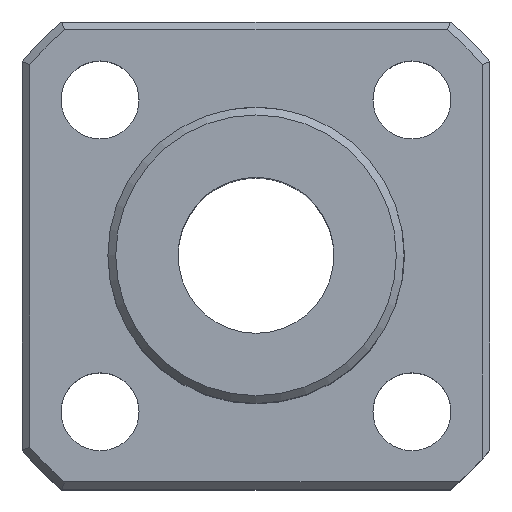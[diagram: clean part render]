
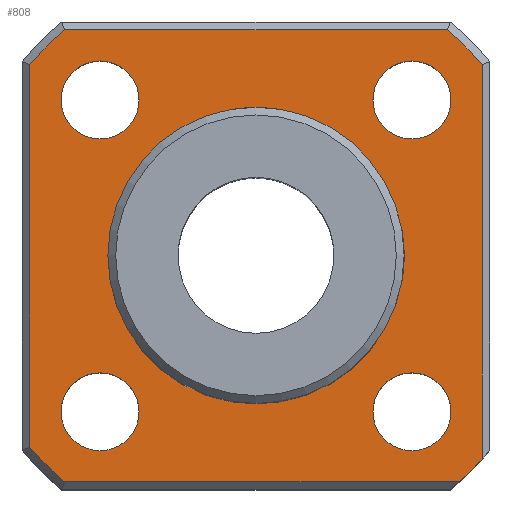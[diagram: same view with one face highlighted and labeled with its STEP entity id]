
A CAD part, top view. The second image highlights one B-rep face of the part: STEP entity #808.
In plain terms, the highlighted planar face has unit normal (0, 0, 1).
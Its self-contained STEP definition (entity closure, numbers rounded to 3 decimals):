
#531=CARTESIAN_POINT('',(13.038,-14.5,10.0));
#532=VERTEX_POINT('',#531);
#540=CARTESIAN_POINT('',(-12.278,-14.5,10.0));
#541=VERTEX_POINT('',#540);
#542=CARTESIAN_POINT('',(13.038,-14.5,10.0));
#543=DIRECTION('',(-1.0,0.0,0.0));
#544=VECTOR('',#543,25.316);
#545=LINE('',#542,#544);
#546=EDGE_CURVE('',#532,#541,#545,.T.);
#571=CARTESIAN_POINT('',(-14.5,-12.278,10.0));
#572=VERTEX_POINT('',#571);
#573=CARTESIAN_POINT('',(0.0,0.0,10.0));
#574=DIRECTION('',(0.0,0.0,-1.0));
#575=DIRECTION('',(-1.0,0.0,0.0));
#576=AXIS2_PLACEMENT_3D('',#573,#574,#575);
#577=CIRCLE('',#576,19.);
#578=EDGE_CURVE('',#541,#572,#577,.T.);
#603=CARTESIAN_POINT('',(-14.5,12.278,10.0));
#604=VERTEX_POINT('',#603);
#605=CARTESIAN_POINT('',(-14.5,-12.278,10.0));
#606=DIRECTION('',(0.0,1.0,0.0));
#607=VECTOR('',#606,24.556);
#608=LINE('',#605,#607);
#609=EDGE_CURVE('',#572,#604,#608,.T.);
#628=CARTESIAN_POINT('',(-12.278,14.5,10.0));
#629=VERTEX_POINT('',#628);
#630=CARTESIAN_POINT('',(0.0,0.0,10.0));
#631=DIRECTION('',(0.0,0.0,-1.0));
#632=DIRECTION('',(-1.0,0.0,0.0));
#633=AXIS2_PLACEMENT_3D('',#630,#631,#632);
#634=CIRCLE('',#633,19.);
#635=EDGE_CURVE('',#604,#629,#634,.T.);
#654=CARTESIAN_POINT('',(12.278,14.5,10.0));
#655=VERTEX_POINT('',#654);
#656=CARTESIAN_POINT('',(-12.278,14.5,10.0));
#657=DIRECTION('',(1.0,0.0,0.0));
#658=VECTOR('',#657,24.556);
#659=LINE('',#656,#658);
#660=EDGE_CURVE('',#629,#655,#659,.T.);
#679=CARTESIAN_POINT('',(14.5,12.278,10.0));
#680=VERTEX_POINT('',#679);
#681=CARTESIAN_POINT('',(0.0,0.0,10.0));
#682=DIRECTION('',(0.0,0.0,-1.0));
#683=DIRECTION('',(1.0,0.0,0.0));
#684=AXIS2_PLACEMENT_3D('',#681,#682,#683);
#685=CIRCLE('',#684,19.);
#686=EDGE_CURVE('',#655,#680,#685,.T.);
#705=CARTESIAN_POINT('',(14.5,-13.038,10.0));
#706=VERTEX_POINT('',#705);
#723=CARTESIAN_POINT('',(14.5,12.278,10.0));
#724=DIRECTION('',(0.0,-1.0,0.0));
#725=VECTOR('',#724,25.316);
#726=LINE('',#723,#725);
#727=EDGE_CURVE('',#680,#706,#726,.T.);
#732=CARTESIAN_POINT('',(0.,0.,10.0));
#733=DIRECTION('',(0.0,0.0,1.0));
#734=DIRECTION('',(1.0,0.0,0.0));
#735=AXIS2_PLACEMENT_3D('',#732,#733,#734);
#736=PLANE('',#735);
#737=ORIENTED_EDGE('',*,*,#727,.F.);
#738=ORIENTED_EDGE('',*,*,#686,.F.);
#739=ORIENTED_EDGE('',*,*,#660,.F.);
#740=ORIENTED_EDGE('',*,*,#635,.F.);
#741=ORIENTED_EDGE('',*,*,#609,.F.);
#742=ORIENTED_EDGE('',*,*,#578,.F.);
#743=ORIENTED_EDGE('',*,*,#546,.F.);
#744=CARTESIAN_POINT('',(0.0,0.0,10.0));
#745=DIRECTION('',(0.0,0.0,-1.0));
#746=DIRECTION('',(1.0,0.0,0.0));
#747=AXIS2_PLACEMENT_3D('',#744,#745,#746);
#748=CIRCLE('',#747,19.5);
#749=EDGE_CURVE('',#706,#532,#748,.T.);
#750=ORIENTED_EDGE('',*,*,#749,.F.);
#751=EDGE_LOOP('',(#737,#738,#739,#740,#741,#742,#743,#750));
#752=FACE_OUTER_BOUND('',#751,.T.);
#753=CARTESIAN_POINT('',(9.5,0.,10.0));
#754=VERTEX_POINT('',#753);
#755=CARTESIAN_POINT('',(0.0,0.0,10.0));
#756=DIRECTION('',(0.0,0.0,-1.0));
#757=DIRECTION('',(-1.0,0.0,0.0));
#758=AXIS2_PLACEMENT_3D('',#755,#756,#757);
#759=CIRCLE('',#758,9.5);
#760=EDGE_CURVE('',#754,#754,#759,.T.);
#761=ORIENTED_EDGE('',*,*,#760,.T.);
#762=EDGE_LOOP('',(#761));
#763=FACE_BOUND('',#762,.T.);
#764=CARTESIAN_POINT('',(-12.5,10.,10.0));
#765=VERTEX_POINT('',#764);
#766=CARTESIAN_POINT('',(-10.0,10.,10.0));
#767=DIRECTION('',(0.0,0.0,-1.0));
#768=DIRECTION('',(1.0,0.0,0.0));
#769=AXIS2_PLACEMENT_3D('',#766,#767,#768);
#770=CIRCLE('',#769,2.5);
#771=EDGE_CURVE('',#765,#765,#770,.T.);
#772=ORIENTED_EDGE('',*,*,#771,.T.);
#773=EDGE_LOOP('',(#772));
#774=FACE_BOUND('',#773,.T.);
#775=CARTESIAN_POINT('',(7.5,10.,10.0));
#776=VERTEX_POINT('',#775);
#777=CARTESIAN_POINT('',(10.0,10.,10.0));
#778=DIRECTION('',(0.0,0.0,-1.0));
#779=DIRECTION('',(1.0,0.0,0.0));
#780=AXIS2_PLACEMENT_3D('',#777,#778,#779);
#781=CIRCLE('',#780,2.5);
#782=EDGE_CURVE('',#776,#776,#781,.T.);
#783=ORIENTED_EDGE('',*,*,#782,.T.);
#784=EDGE_LOOP('',(#783));
#785=FACE_BOUND('',#784,.T.);
#786=CARTESIAN_POINT('',(-12.5,-10.0,10.0));
#787=VERTEX_POINT('',#786);
#788=CARTESIAN_POINT('',(-10.0,-10.0,10.0));
#789=DIRECTION('',(0.0,0.0,-1.0));
#790=DIRECTION('',(1.0,0.0,0.0));
#791=AXIS2_PLACEMENT_3D('',#788,#789,#790);
#792=CIRCLE('',#791,2.5);
#793=EDGE_CURVE('',#787,#787,#792,.T.);
#794=ORIENTED_EDGE('',*,*,#793,.T.);
#795=EDGE_LOOP('',(#794));
#796=FACE_BOUND('',#795,.T.);
#797=CARTESIAN_POINT('',(7.5,-10.0,10.0));
#798=VERTEX_POINT('',#797);
#799=CARTESIAN_POINT('',(10.0,-10.0,10.0));
#800=DIRECTION('',(0.0,0.0,-1.0));
#801=DIRECTION('',(1.0,0.0,0.0));
#802=AXIS2_PLACEMENT_3D('',#799,#800,#801);
#803=CIRCLE('',#802,2.5);
#804=EDGE_CURVE('',#798,#798,#803,.T.);
#805=ORIENTED_EDGE('',*,*,#804,.T.);
#806=EDGE_LOOP('',(#805));
#807=FACE_BOUND('',#806,.T.);
#808=ADVANCED_FACE('',(#752,#763,#774,#785,#796,#807),#736,.T.);
